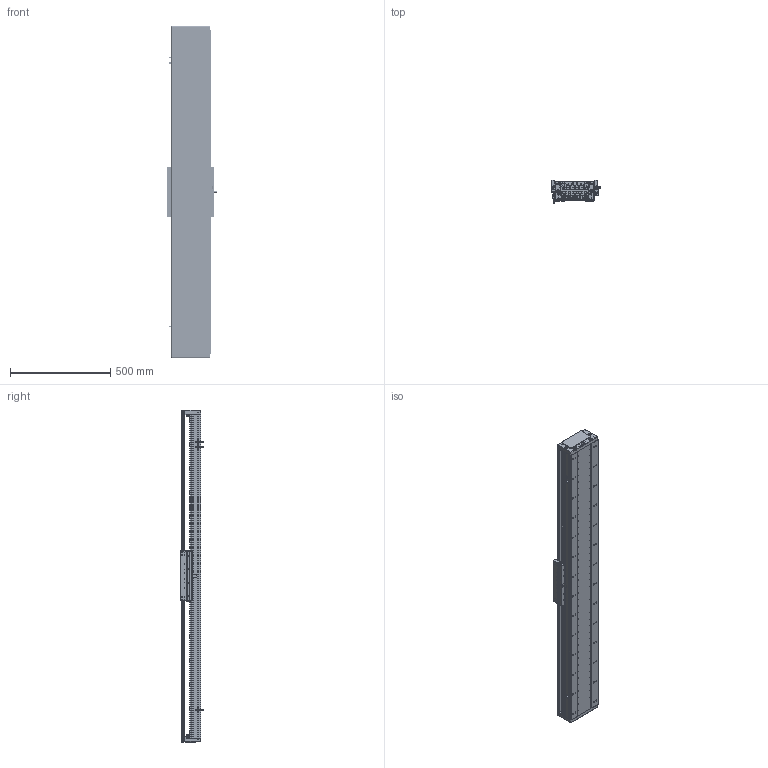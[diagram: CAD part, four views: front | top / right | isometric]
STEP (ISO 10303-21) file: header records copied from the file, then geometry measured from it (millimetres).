
FILE_DESCRIPTION (( 'STEP AP203' ), '1' );
FILE_NAME ('DA-C195-C3-T1320-C010-0.2 眻盄萇儂.STEP', '2025-08-15T01:39:02', ( '' ), ( '' ), 'SwSTEP 2.0', 'SolidWorks 2019', '' );
FILE_SCHEMA (( 'CONFIG_CONTROL_DESIGN' ));
Length unit declared in the file: millimetre
Products named in the file (12): 葩璃 DA95-GT-T-00; PM-T45ㄗ侂狟ㄘ; DA-C195-C3-T1320-C010-0.2 眻盄萇儂; IU-CU195-L-00 菁釱(L1620); DA195-DG-H-00  端盖（压铸镂空版）; DA165-GYP-00 光电感应片(默认); MS200 棠掑喜S315-T240; 66156-0001-003-00 裔啣; LMT黍杅芛; IU-CU195-L 菁釱絳寢; CU195-C3賑輸-俋楷; DA95-HXJ-00 遣喳砎蝶
Assembly tree (20 placements, depth 3):
  DA-C195-C3-T1320-C010-0.2 眻盄萇儂
    IU-CU195-L 菁釱絳寢
      IU-CU195-L-00 菁釱(L1620)
      葩璃 DA95-GT-T-00  x4
    LMT黍杅芛
    MS200 棠掑喜S315-T240
    PM-T45ㄗ侂狟ㄘ  x3
    DA165-GYP-00 光电感应片(默认)
    DA195-DG-H-00  端盖（压铸镂空版）  x2
    DA95-HXJ-00 遣喳砎蝶  x4
    66156-0001-003-00 裔啣
    CU195-C3賑輸-俋楷
Bounding box: 248 x 115.6 x 1660 mm (x, y, z)
Volume: 11462961.9 mm3; surface area: 3264551.9 mm2
Topology: 78 solids, 118 shells, 5397 faces, 14128 edges, 8643 vertices
Faces by surface type: cylinder 2456, plane 1607, bspline 710, cone 544, torus 44, sphere 36
Entity records: 154641 total; most frequent: CARTESIAN_POINT 49025, ORIENTED_EDGE 22342, DIRECTION 21038, EDGE_CURVE 11171, AXIS2_PLACEMENT_3D 7839, VERTEX_POINT 7073, LINE 5360, VECTOR 5360
